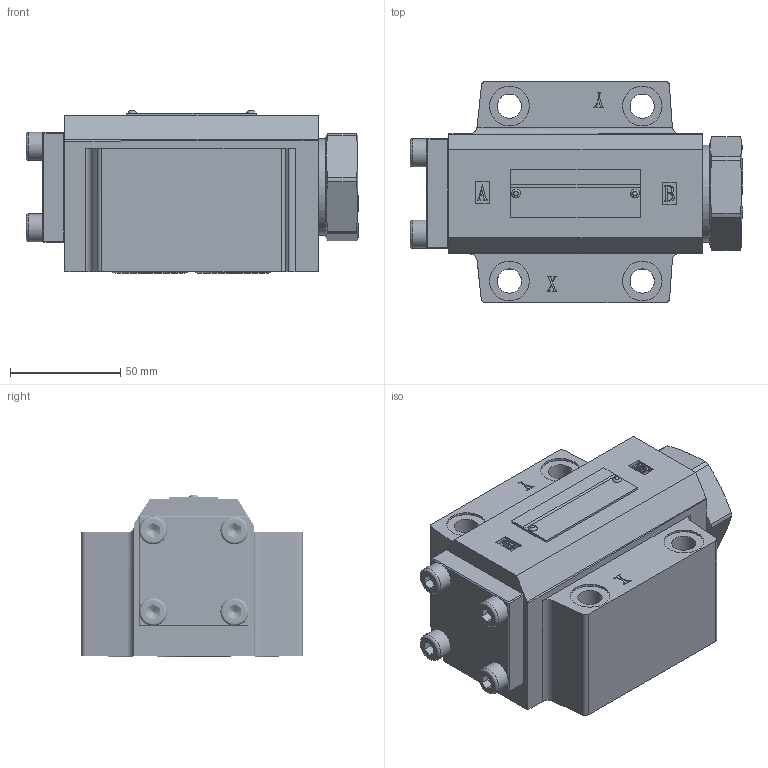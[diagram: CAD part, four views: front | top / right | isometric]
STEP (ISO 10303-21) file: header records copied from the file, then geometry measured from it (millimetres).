
FILE_DESCRIPTION(/* description */ (''),/* implementation_level */ '2;1');
FILE_NAME(/* name */ 'SVSL20P-1(2)-4XJ液控单向阀.prt.stp',/* time_stamp */ '2022-03-30T19:20:49+08:00',/* author */ (''),/* organization */ (''),/* preprocessor_version */ 'ST-DEVELOPER v16.7',/* originating_system */ 'SIEMENS PLM Software NX 12.0',/* authorisation */ '');
FILE_SCHEMA (('AUTOMOTIVE_DESIGN { 1 0 10303 214 3 1 1 1 }'));
Products named in the file (1): SVSL20P-1(2)-4XJ液控单向阀
Bounding box: 150.74 x 100.5 x 73.63 mm (x, y, z)
Volume: 754939.2 mm3; surface area: 99736.5 mm2
Topology: 14 solids, 29 shells, 566 faces, 1357 edges, 860 vertices
Faces by surface type: plane 252, cylinder 186, cone 39, extrusion 35, bspline 34, torus 20
Full cylindrical faces by diameter (mm): 1.8 x6, 6 x1, 6.7 x52, 9 x4, 11 x4, 12.2 x2, 12.73 x4, 16.6 x1, 18 x4, 34.8 x2, 36 x1, 38.491 x1, 44 x1
Entity records: 52765 total; most frequent: CARTESIAN_POINT 40826, ORIENTED_EDGE 2186, DIRECTION 2005, EDGE_CURVE 1093, VERTEX_POINT 743, AXIS2_PLACEMENT_3D 709, EDGE_LOOP 624, VECTOR 587
